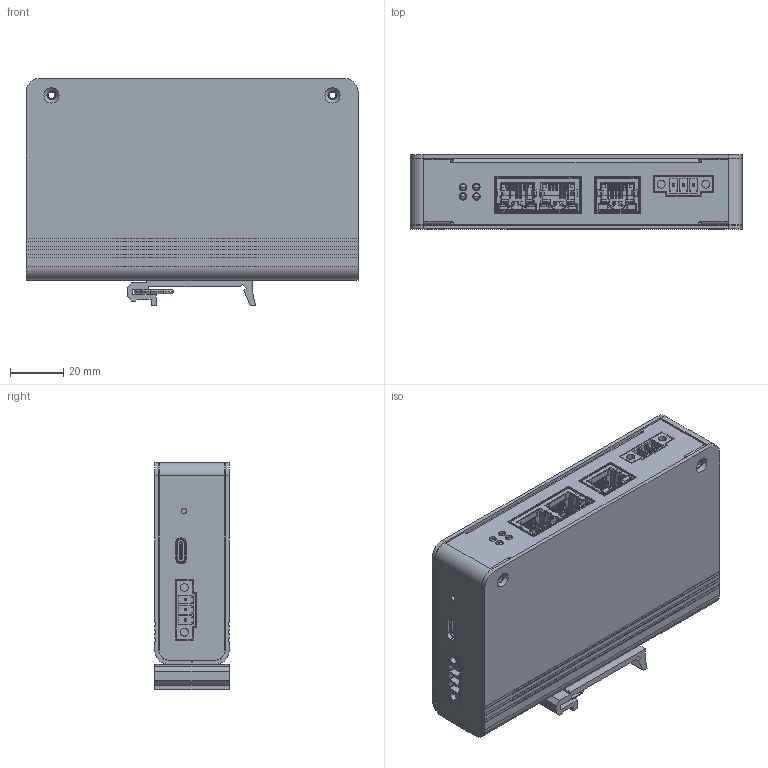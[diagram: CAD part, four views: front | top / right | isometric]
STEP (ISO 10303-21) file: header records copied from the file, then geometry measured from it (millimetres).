
FILE_DESCRIPTION((''),'2;1');
FILE_NAME('00-PXB-8020-1107_ASM_SW0001','2024-01-11T17:49:57',('liushaohao'),(''),'CREO PARAMETRIC BY PTC INC, 2021404','CREO PARAMETRIC BY PTC INC, 2021404','');
FILE_SCHEMA(('CONFIG_CONTROL_DESIGN'));
Products named in the file (1): 00-PXB-8020-1107_ASM_SW0001
Bounding box: 125 x 28 x 85.5 mm (x, y, z)
Volume: 68988.2 mm3; surface area: 111017.4 mm2
Topology: 19 solids, 19 shells, 5476 faces, 14965 edges, 9466 vertices
Faces by surface type: plane 4109, cylinder 1063, bspline 178, cone 72, sphere 28, torus 26
Entity records: 183172 total; most frequent: CARTESIAN_POINT 45047, ORIENTED_EDGE 29842, DIRECTION 26676, EDGE_CURVE 14921, VECTOR 12130, LINE 12130, VERTEX_POINT 9466, AXIS2_PLACEMENT_3D 7273
